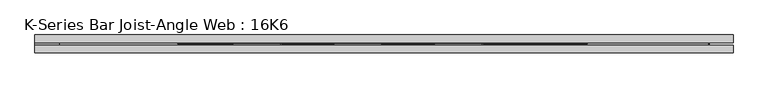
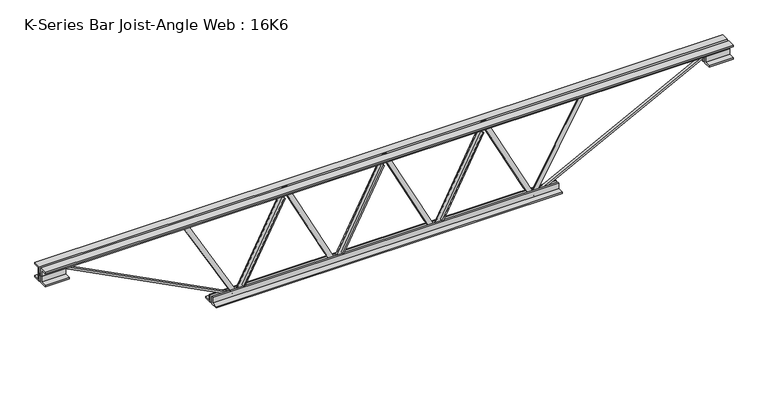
"""IFC4 building model written with IfcOpenShell, lengths in millimetres: beam geometry, K-Series Bar Joist-Angle Web : 16K6."""

from ifc_helpers import new_model, si_unit, frame, origin, place, context, project, spatial, polyline, outline, extrude, faceted_brep, source, transform, mapped, element, save


def k_series_bar_joist_angle_web_16k6_51edf5c7(model_context):
    return source(origin(), model_context, "Body", "SolidModel", [
        extrude(outline(polyline([(-4.75, 4.7625), (-4.75, 0.0), (-17.45, 0.0), (-17.45, 4.7625), (-4.75, 4.7625)])), frame((176.6813388, 0.0, -164.9), z_axis=(-0.4540672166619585, 0.0, 0.890967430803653), x_axis=(0.0, -1.0, 0.0)), (0.0, 0.0, 1.0), 370.1594341),
        extrude(outline(polyline([(-199.825, 206.6666667), (-180.775, 206.6666667), (-180.775, 206.1530301), (199.825, 12.1863635), (199.825, -6.35), (180.775, -6.35), (180.775, 0.5136365), (-199.825, 194.4803032), (-199.825, 206.6666667)])), frame((0.0, 0.0, 0.0), z_axis=(0.0, 1.0, 0.0), x_axis=(0.0, 0.0, 1.0)), (0.0, 0.0, 1.0), 4.75),
        faceted_brep([(-206.6666667, 0.0, -180.775), (-206.6666667, 0.0, -199.825), (-206.6666667, -4.75, -199.825), (-206.6666667, -4.75, -180.775), (-206.1530301, 0.0, -180.775), (-12.1863635, 0.0, 199.825), (6.35, 0.0, 199.825), (6.35, 0.0, 180.775), (-0.5136365, 0.0, 180.775), (-194.4803032, 0.0, -199.825), (-194.4803032, -4.75, -199.825), (-176.6813388, -4.75, -164.9), (-180.9245712, -4.75, -162.7375049), (-12.8473073, -4.75, 167.0624951), (-8.6040749, -4.75, 164.9), (-0.5136365, -4.75, 180.775), (6.35, -4.75, 180.775), (6.35, -4.75, 199.825), (-12.1863635, -4.75, 199.825), (-206.1530301, -4.75, -180.775), (-8.6040749, -17.4625, 164.9), (-176.6813388, -17.4625, -164.9), (-180.9245712, -17.4625, -162.7375049), (-12.8473073, -17.4625, 167.0624951)], [[[0, 1, 2, 3]], [[1, 0, 4, 5, 6, 7, 8, 9]], [[2, 1, 9, 10]], [[3, 2, 10, 11, 12, 13, 14, 15, 16, 17, 18, 19]], [[0, 3, 19, 4]], [[9, 8, 15, 14, 20, 21, 11, 10]], [[5, 4, 19, 18]], [[7, 6, 17, 16]], [[8, 7, 16, 15]], [[6, 5, 18, 17]], [[21, 22, 12, 11]], [[20, 14, 13, 23]], [[22, 21, 20, 23]], [[12, 22, 23, 13]]]),
        extrude(outline(polyline([(-4.75, 4.7625), (-4.75, 0.0), (-17.45, 0.0), (-17.45, 4.7625), (-4.75, 4.7625)])), frame((590.0146722, 0.0, -164.9), z_axis=(-0.4540672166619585, 0.0, 0.890967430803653), x_axis=(0.0, -1.0, 0.0)), (0.0, 0.0, 1.0), 370.1594341),
        extrude(outline(polyline([(-199.825, 620.0), (-180.775, 620.0), (-180.775, 619.4863635), (199.825, 425.5196968), (199.825, 406.9833333), (180.775, 406.9833333), (180.775, 413.8469699), (-199.825, 607.8136365), (-199.825, 620.0)])), frame((0.0, 0.0, 0.0), z_axis=(0.0, 1.0, 0.0), x_axis=(0.0, 0.0, 1.0)), (0.0, 0.0, 1.0), 4.75),
        faceted_brep([(206.6666667, 0.0, -180.775), (206.6666667, 0.0, -199.825), (206.6666667, -4.75, -199.825), (206.6666667, -4.75, -180.775), (207.1803032, 0.0, -180.775), (401.1469699, 0.0, 199.825), (419.6833333, 0.0, 199.825), (419.6833333, 0.0, 180.775), (412.8196968, 0.0, 180.775), (218.8530301, 0.0, -199.825), (218.8530301, -4.75, -199.825), (236.6519945, -4.75, -164.9), (232.4087621, -4.75, -162.7375049), (400.4860261, -4.75, 167.0624951), (404.7292585, -4.75, 164.9), (412.8196968, -4.75, 180.775), (419.6833333, -4.75, 180.775), (419.6833333, -4.75, 199.825), (401.1469699, -4.75, 199.825), (207.1803032, -4.75, -180.775), (404.7292585, -17.4625, 164.9), (236.6519945, -17.4625, -164.9), (232.4087621, -17.4625, -162.7375049), (400.4860261, -17.4625, 167.0624951)], [[[0, 1, 2, 3]], [[1, 0, 4, 5, 6, 7, 8, 9]], [[2, 1, 9, 10]], [[3, 2, 10, 11, 12, 13, 14, 15, 16, 17, 18, 19]], [[0, 3, 19, 4]], [[9, 8, 15, 14, 20, 21, 11, 10]], [[5, 4, 19, 18]], [[7, 6, 17, 16]], [[8, 7, 16, 15]], [[6, 5, 18, 17]], [[21, 22, 12, 11]], [[20, 14, 13, 23]], [[22, 21, 20, 23]], [[12, 22, 23, 13]]]),
        extrude(outline(polyline([(-4.75, 4.7625), (-4.75, 0.0), (-17.45, 0.0), (-17.45, 4.7625), (-4.75, 4.7625)])), frame((-236.6519945, 0.0, -164.9), z_axis=(-0.4540672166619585, 0.0, 0.890967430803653), x_axis=(0.0, -1.0, 0.0)), (0.0, 0.0, 1.0), 370.1594341),
        extrude(outline(polyline([(-199.825, -206.6666667), (-180.775, -206.6666667), (-180.775, -207.1803032), (199.825, -401.1469699), (199.825, -419.6833333), (180.775, -419.6833333), (180.775, -412.8196968), (-199.825, -218.8530301), (-199.825, -206.6666667)])), frame((0.0, 0.0, 0.0), z_axis=(0.0, 1.0, 0.0), x_axis=(0.0, 0.0, 1.0)), (0.0, 0.0, 1.0), 4.75),
        faceted_brep([(-620.0, 0.0, -180.775), (-620.0, 0.0, -199.825), (-620.0, -4.75, -199.825), (-620.0, -4.75, -180.775), (-619.4863635, 0.0, -180.775), (-425.5196968, 0.0, 199.825), (-406.9833333, 0.0, 199.825), (-406.9833333, 0.0, 180.775), (-413.8469699, 0.0, 180.775), (-607.8136365, 0.0, -199.825), (-607.8136365, -4.75, -199.825), (-590.0146722, -4.75, -164.9), (-594.2579046, -4.75, -162.7375049), (-426.1806406, -4.75, 167.0624951), (-421.9374082, -4.75, 164.9), (-413.8469699, -4.75, 180.775), (-406.9833333, -4.75, 180.775), (-406.9833333, -4.75, 199.825), (-425.5196968, -4.75, 199.825), (-619.4863635, -4.75, -180.775), (-421.9374082, -17.4625, 164.9), (-590.0146722, -17.4625, -164.9), (-594.2579046, -17.4625, -162.7375049), (-426.1806406, -17.4625, 167.0624951)], [[[0, 1, 2, 3]], [[1, 0, 4, 5, 6, 7, 8, 9]], [[2, 1, 9, 10]], [[3, 2, 10, 11, 12, 13, 14, 15, 16, 17, 18, 19]], [[0, 3, 19, 4]], [[9, 8, 15, 14, 20, 21, 11, 10]], [[5, 4, 19, 18]], [[7, 6, 17, 16]], [[8, 7, 16, 15]], [[6, 5, 18, 17]], [[21, 22, 12, 11]], [[20, 14, 13, 23]], [[22, 21, 20, 23]], [[12, 22, 23, 13]]]),
        extrude(outline(polyline([(4.75, 203.0), (36.75, 203.0), (36.75, 196.5), (11.25, 196.5), (11.25, 171.0), (4.75, 171.0), (4.75, 203.0)])), frame((-1432.0, 0.0, 0.0), z_axis=(1.0, 0.0, 0.0), x_axis=(0.0, 1.0, 0.0)), (0.0, 0.0, 1.0), 2864.0),
        extrude(outline(polyline([(-4.75, 203.0), (-4.75, 171.0), (-11.25, 171.0), (-11.25, 196.5), (-36.75, 196.5), (-36.75, 203.0), (-4.75, 203.0)])), frame((-1432.0, 0.0, 0.0), z_axis=(1.0, 0.0, 0.0), x_axis=(0.0, 1.0, 0.0)), (0.0, 0.0, 1.0), 2864.0),
        extrude(outline(polyline([(4.75, -203.0), (4.75, -171.0), (11.25, -171.0), (11.25, -196.5), (36.75, -196.5), (36.75, -203.0), (4.75, -203.0)])), frame((-720.0, 0.0, 0.0), z_axis=(1.0, 0.0, 0.0), x_axis=(0.0, 1.0, 0.0)), (0.0, 0.0, 1.0), 1440.0),
        extrude(outline(polyline([(-4.75, -203.0), (-36.75, -203.0), (-36.75, -196.5), (-11.25, -196.5), (-11.25, -171.0), (-4.75, -171.0), (-4.75, -203.0)])), frame((-720.0, 0.0, 0.0), z_axis=(1.0, 0.0, 0.0), x_axis=(0.0, 1.0, 0.0)), (0.0, 0.0, 1.0), 1440.0),
        extrude(outline(polyline([(4.75, 139.5), (4.75, 171.0), (11.25, 171.0), (11.25, 146.0), (36.75, 146.0), (36.75, 139.5), (4.75, 139.5)])), frame((1332.0, 0.0, 0.0), z_axis=(1.0, 0.0, 0.0), x_axis=(0.0, 1.0, 0.0)), (0.0, 0.0, 1.0), 100.0),
        extrude(outline(polyline([(-4.75, 139.5), (-36.75, 139.5), (-36.75, 146.0), (-11.25, 146.0), (-11.25, 171.0), (-4.75, 171.0), (-4.75, 139.5)])), frame((1332.0, 0.0, 0.0), z_axis=(1.0, 0.0, 0.0), x_axis=(0.0, 1.0, 0.0)), (0.0, 0.0, 1.0), 100.0),
        extrude(outline(polyline([(-4.75, 139.5), (-36.75, 139.5), (-36.75, 146.0), (-11.25, 146.0), (-11.25, 171.0), (-4.75, 171.0), (-4.75, 139.5)])), frame((-1432.0, 0.0, 0.0), z_axis=(1.0, 0.0, 0.0), x_axis=(0.0, 1.0, 0.0)), (0.0, 0.0, 1.0), 100.0),
        extrude(outline(polyline([(36.75, 139.5), (4.75, 139.5), (4.75, 171.0), (11.25, 171.0), (11.25, 146.0), (36.75, 146.0), (36.75, 139.5)])), frame((-1432.0, 0.0, 0.0), z_axis=(1.0, 0.0, 0.0), x_axis=(0.0, 1.0, 0.0)), (0.0, 0.0, 1.0), 100.0),
        extrude(outline(polyline([(193.9566712, -846.6238095), (174.9066712, -846.6238095), (174.9066712, -839.2147608), (-201.0810178, -627.8833925), (-191.7469672, -611.2768275), (193.9566712, -828.0692387), (193.9566712, -846.6238095)])), frame((0.0, 0.0, 0.0), z_axis=(0.0, 1.0, 0.0), x_axis=(0.0, 0.0, 1.0)), (0.0, 0.0, 1.0), 4.7625),
        extrude(outline(polyline([(-4.7625, -10.5646147), (-4.7625, 8.4853853), (0.0, 8.4853853), (0.0, -10.5646147), (-4.7625, -10.5646147)])), frame((620.0, 0.0, -196.65), z_axis=(0.4900154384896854, 0.0, 0.8717137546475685), x_axis=(0.0, -1.0, 0.0)), (0.0, 0.0, 1.0), 421.7554192),
        extrude(outline(polyline([(-200.8705467, -622.1793315), (-192.4294533, -617.8206685), (175.75, -1330.8460208), (175.75, -1432.0), (166.25, -1432.0), (166.25, -1333.1539792), (-200.8705467, -622.1793315)])), frame((0.0, -4.75, 0.0), z_axis=(0.0, 1.0, 0.0), x_axis=(0.0, 0.0, 1.0)), (0.0, 0.0, 1.0), 9.5),
        extrude(outline(polyline([(0.0, -9.5), (0.0, 0.0), (801.3179909, 0.0), (801.3179909, -9.5), (0.0, -9.5)])), frame((1334.1793315, -4.75, 166.7794533), z_axis=(-0.4588066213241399, 0.0, 0.8885361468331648), x_axis=(-0.8885361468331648, 0.0, -0.4588066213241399)), (0.0, 0.0, 1.0), 9.5),
    ])


if __name__ == "__main__":
    model = new_model("IFC4")
    model_context = context("Model", 3, world=origin())
    ifc_project = project(units=[si_unit("LENGTHUNIT", "METRE", prefix="MILLI")], contexts=[model_context])
    site = spatial("IfcSite", under=ifc_project)
    building = spatial("IfcBuilding", under=site)
    placement = place(None, origin())
    k_series_bar_joist_angle_web_16k6_shape = k_series_bar_joist_angle_web_16k6_51edf5c7(model_context)
    element("IfcBeam", 1, ObjectType="K-Series Bar Joist-Angle Web : 16K6", at=placement, inside=building, context=model_context, shape_type="MappedRepresentation", body=[
        mapped(k_series_bar_joist_angle_web_16k6_shape, transform((0.0, 0.0, 0.0), x_axis=(1.0, 0.0, 0.0), y_axis=(0.0, 1.0, 0.0), z_axis=(0.0, 0.0, 1.0))),
    ])
    save(model, "model.ifc")
